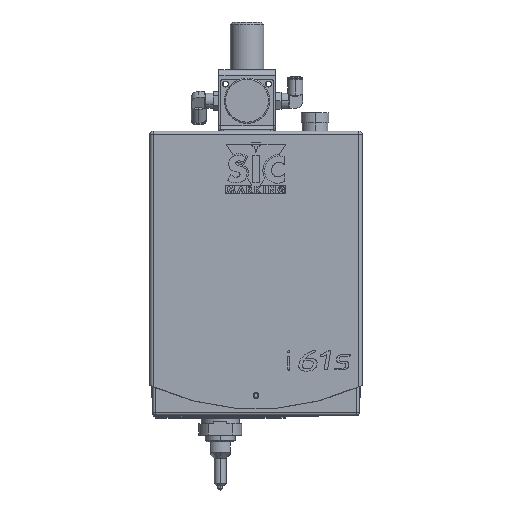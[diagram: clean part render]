
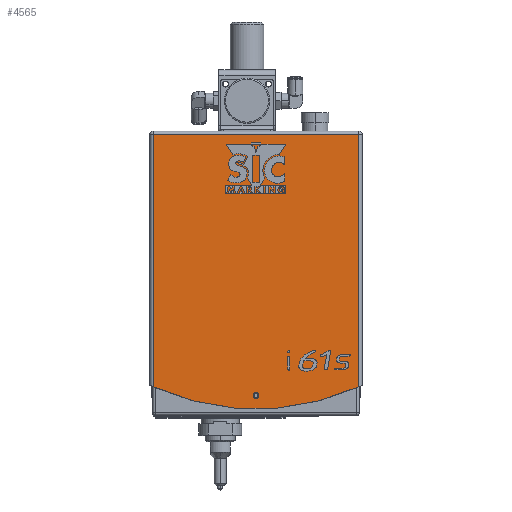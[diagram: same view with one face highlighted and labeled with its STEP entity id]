
A CAD part, top view. The second image highlights one B-rep face of the part: STEP entity #4565.
In plain terms, the highlighted planar face has unit normal (0, 0, 1).
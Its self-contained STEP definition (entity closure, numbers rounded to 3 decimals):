
#4149 = VERTEX_POINT ( 'NONE', #33408 ) ;
#4153 = EDGE_CURVE ( 'NONE', #4149, #4155, #33407, .T. ) ;
#4155 = VERTEX_POINT ( 'NONE', #33402 ) ;
#4540 = EDGE_CURVE ( 'NONE', #4686, #4541, #33866, .T. ) ;
#4541 = VERTEX_POINT ( 'NONE', #33917 ) ;
#4543 = ORIENTED_EDGE ( 'NONE', *, *, #4544, .T. ) ;
#4544 = EDGE_CURVE ( 'NONE', #4541, #4679, #33915, .T. ) ;
#4565 = ADVANCED_FACE ( 'NONE', ( #33936, #33935 ), #33988, .F. ) ;
#4568 = EDGE_LOOP ( 'NONE', ( #4570, #4575 ) ) ;
#4570 = ORIENTED_EDGE ( 'NONE', *, *, #4572, .F. ) ;
#4572 = EDGE_CURVE ( 'NONE', #4155, #4149, #33981, .T. ) ;
#4575 = ORIENTED_EDGE ( 'NONE', *, *, #4153, .F. ) ;
#4577 = EDGE_LOOP ( 'NONE', ( #4676, #4681, #4688, #4543 ) ) ;
#4676 = ORIENTED_EDGE ( 'NONE', *, *, #4678, .T. ) ;
#4678 = EDGE_CURVE ( 'NONE', #4679, #4680, #34290, .T. ) ;
#4679 = VERTEX_POINT ( 'NONE', #34284 ) ;
#4680 = VERTEX_POINT ( 'NONE', #34281 ) ;
#4681 = ORIENTED_EDGE ( 'NONE', *, *, #4683, .T. ) ;
#4683 = EDGE_CURVE ( 'NONE', #4680, #4686, #34274, .T. ) ;
#4686 = VERTEX_POINT ( 'NONE', #34276 ) ;
#4688 = ORIENTED_EDGE ( 'NONE', *, *, #4540, .T. ) ;
#33402 = CARTESIAN_POINT ( 'NONE',  ( 22.815, -44.798, 109.755 ) ) ;
#33403 = DIRECTION ( 'NONE',  ( 1., 0., 0. ) ) ;
#33404 = DIRECTION ( 'NONE',  ( 0., 0., 1. ) ) ;
#33405 = CARTESIAN_POINT ( 'NONE',  ( 20.315, -44.798, 109.755 ) ) ;
#33406 = AXIS2_PLACEMENT_3D ( 'NONE', #33405, #33404, #33403 ) ;
#33407 = CIRCLE ( 'NONE', #33406, 2.5 ) ;
#33408 = CARTESIAN_POINT ( 'NONE',  ( 17.815, -44.798, 109.755 ) ) ;
#33866 = LINE ( 'NONE', #33920, #33919 ) ;
#33912 = DIRECTION ( 'NONE',  ( -1., 0., 0. ) ) ;
#33913 = VECTOR ( 'NONE', #33912, 1000. ) ;
#33914 = CARTESIAN_POINT ( 'NONE',  ( -68.685, 173.702, 109.755 ) ) ;
#33915 = LINE ( 'NONE', #33914, #33913 ) ;
#33917 = CARTESIAN_POINT ( 'NONE',  ( 106.315, 173.702, 109.755 ) ) ;
#33918 = DIRECTION ( 'NONE',  ( 0., 1., 0. ) ) ;
#33919 = VECTOR ( 'NONE', #33918, 1000. ) ;
#33920 = CARTESIAN_POINT ( 'NONE',  ( 106.315, 176.702, 109.755 ) ) ;
#33935 = FACE_OUTER_BOUND ( 'NONE', #4577, .T. ) ;
#33936 = FACE_BOUND ( 'NONE', #4568, .T. ) ;
#33975 = DIRECTION ( 'NONE',  ( 1., 0., 0. ) ) ;
#33977 = DIRECTION ( 'NONE',  ( 0., 0., 1. ) ) ;
#33978 = CARTESIAN_POINT ( 'NONE',  ( 20.315, -44.798, 109.755 ) ) ;
#33979 = AXIS2_PLACEMENT_3D ( 'NONE', #33978, #33977, #33975 ) ;
#33981 = CIRCLE ( 'NONE', #33979, 2.5 ) ;
#33982 = DIRECTION ( 'NONE',  ( -1., 0., 0. ) ) ;
#33983 = DIRECTION ( 'NONE',  ( 0., 0., -1. ) ) ;
#33984 = CARTESIAN_POINT ( 'NONE',  ( -68.685, 176.702, 109.755 ) ) ;
#33985 = AXIS2_PLACEMENT_3D ( 'NONE', #33984, #33983, #33982 ) ;
#33988 = PLANE ( 'NONE',  #33985 ) ;
#34267 = DIRECTION ( 'NONE',  ( -1., 0., 0. ) ) ;
#34269 = DIRECTION ( 'NONE',  ( 0., 0., 1. ) ) ;
#34270 = CARTESIAN_POINT ( 'NONE',  ( 20.315, 154.085, 109.755 ) ) ;
#34272 = AXIS2_PLACEMENT_3D ( 'NONE', #34270, #34269, #34267 ) ;
#34274 = CIRCLE ( 'NONE', #34272, 210.159 ) ;
#34276 = CARTESIAN_POINT ( 'NONE',  ( 106.315, -37.672, 109.755 ) ) ;
#34281 = CARTESIAN_POINT ( 'NONE',  ( -65.685, -37.672, 109.755 ) ) ;
#34284 = CARTESIAN_POINT ( 'NONE',  ( -65.685, 173.702, 109.755 ) ) ;
#34286 = DIRECTION ( 'NONE',  ( 0., -1., 0. ) ) ;
#34288 = VECTOR ( 'NONE', #34286, 1000. ) ;
#34289 = CARTESIAN_POINT ( 'NONE',  ( -65.685, 176.702, 109.755 ) ) ;
#34290 = LINE ( 'NONE', #34289, #34288 ) ;
